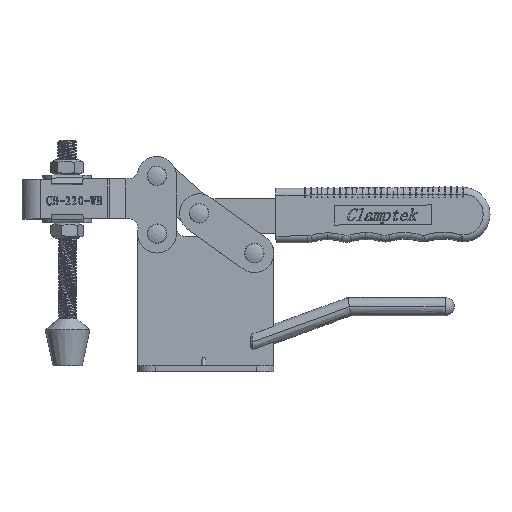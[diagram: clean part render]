
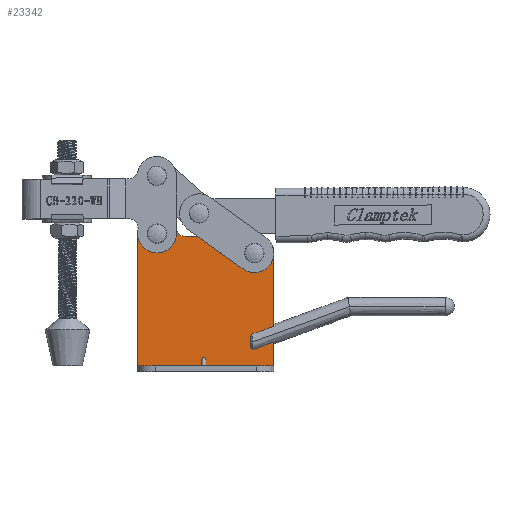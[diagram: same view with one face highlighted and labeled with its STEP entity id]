
A CAD part, top view. The second image highlights one B-rep face of the part: STEP entity #23342.
In plain terms, the highlighted planar face has unit normal (0, 0, 1).
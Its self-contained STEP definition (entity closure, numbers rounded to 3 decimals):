
#100=ELLIPSE('',#24811,1.601,1.);
#305=FACE_BOUND('',#3619,.T.);
#306=FACE_BOUND('',#3620,.T.);
#565=PLANE('',#24834);
#1069=CIRCLE('',#24823,3.2);
#1072=CIRCLE('',#24826,3.2);
#1073=CIRCLE('',#24828,3.2);
#1076=CIRCLE('',#24831,3.2);
#1077=CIRCLE('',#24835,10.);
#1078=CIRCLE('',#24836,5.);
#1079=CIRCLE('',#24837,10.);
#2245=FACE_OUTER_BOUND('',#3618,.T.);
#3618=EDGE_LOOP('',(#17960,#17961,#17962,#17963,#17964,#17965,#17966,#17967,
#17968,#17969,#17970,#17971,#17972,#17973,#17974,#17975,#17976));
#3619=EDGE_LOOP('',(#17977,#17978));
#3620=EDGE_LOOP('',(#17979,#17980));
#5302=LINE('',#42563,#7400);
#5314=LINE('',#42974,#7412);
#5315=LINE('',#42983,#7413);
#5316=LINE('',#42992,#7414);
#5317=LINE('',#42994,#7415);
#5318=LINE('',#42998,#7416);
#5319=LINE('',#43004,#7417);
#5320=LINE('',#43006,#7418);
#5321=LINE('',#43007,#7419);
#5322=LINE('',#43009,#7420);
#5323=LINE('',#43010,#7421);
#7400=VECTOR('',#27551,1000.);
#7412=VECTOR('',#27617,1000.);
#7413=VECTOR('',#27618,1000.);
#7414=VECTOR('',#27619,1000.);
#7415=VECTOR('',#27620,1000.);
#7416=VECTOR('',#27623,1000.);
#7417=VECTOR('',#27628,1000.);
#7418=VECTOR('',#27629,1000.);
#7419=VECTOR('',#27630,1000.);
#7420=VECTOR('',#27631,1000.);
#7421=VECTOR('',#27632,1000.);
#9108=B_SPLINE_CURVE_WITH_KNOTS('',3,(#42976,#42977,#42978,#42979,#42980,
#42981),.UNSPECIFIED.,.F.,.F.,(4,2,4),(0.,0.098,
0.181),.UNSPECIFIED.);
#9109=B_SPLINE_CURVE_WITH_KNOTS('',3,(#42985,#42986,#42987,#42988,#42989,
#42990),.UNSPECIFIED.,.F.,.F.,(4,2,4),(0.,0.071,0.148),
 .UNSPECIFIED.);
#10430=VERTEX_POINT('',#42544);
#10431=VERTEX_POINT('',#42562);
#10437=VERTEX_POINT('',#42653);
#10438=VERTEX_POINT('',#42655);
#10447=VERTEX_POINT('',#42679);
#10448=VERTEX_POINT('',#42680);
#10451=VERTEX_POINT('',#42689);
#10452=VERTEX_POINT('',#42690);
#10458=VERTEX_POINT('',#42973);
#10459=VERTEX_POINT('',#42975);
#10460=VERTEX_POINT('',#42982);
#10461=VERTEX_POINT('',#42984);
#10462=VERTEX_POINT('',#42991);
#10463=VERTEX_POINT('',#42993);
#10464=VERTEX_POINT('',#42995);
#10465=VERTEX_POINT('',#42997);
#10466=VERTEX_POINT('',#42999);
#10467=VERTEX_POINT('',#43001);
#10468=VERTEX_POINT('',#43003);
#10469=VERTEX_POINT('',#43005);
#10470=VERTEX_POINT('',#43008);
#13129=EDGE_CURVE('',#10431,#10430,#5302,.T.);
#13136=EDGE_CURVE('',#10438,#10437,#100,.T.);
#13148=EDGE_CURVE('',#10447,#10448,#1069,.T.);
#13152=EDGE_CURVE('',#10448,#10447,#1072,.T.);
#13153=EDGE_CURVE('',#10451,#10452,#1073,.T.);
#13157=EDGE_CURVE('',#10452,#10451,#1076,.T.);
#13166=EDGE_CURVE('',#10458,#10431,#5314,.T.);
#13167=EDGE_CURVE('',#10430,#10459,#9108,.T.);
#13168=EDGE_CURVE('',#10459,#10460,#5315,.T.);
#13169=EDGE_CURVE('',#10460,#10461,#9109,.T.);
#13170=EDGE_CURVE('',#10461,#10462,#5316,.T.);
#13171=EDGE_CURVE('',#10462,#10463,#5317,.T.);
#13172=EDGE_CURVE('',#10463,#10464,#1077,.T.);
#13173=EDGE_CURVE('',#10464,#10465,#5318,.T.);
#13174=EDGE_CURVE('',#10465,#10466,#1078,.T.);
#13175=EDGE_CURVE('',#10466,#10467,#1079,.T.);
#13176=EDGE_CURVE('',#10467,#10468,#5319,.T.);
#13177=EDGE_CURVE('',#10469,#10468,#5320,.T.);
#13178=EDGE_CURVE('',#10438,#10469,#5321,.T.);
#13179=EDGE_CURVE('',#10437,#10470,#5322,.T.);
#13180=EDGE_CURVE('',#10458,#10470,#5323,.T.);
#17960=ORIENTED_EDGE('',*,*,#13166,.T.);
#17961=ORIENTED_EDGE('',*,*,#13129,.T.);
#17962=ORIENTED_EDGE('',*,*,#13167,.T.);
#17963=ORIENTED_EDGE('',*,*,#13168,.T.);
#17964=ORIENTED_EDGE('',*,*,#13169,.T.);
#17965=ORIENTED_EDGE('',*,*,#13170,.T.);
#17966=ORIENTED_EDGE('',*,*,#13171,.T.);
#17967=ORIENTED_EDGE('',*,*,#13172,.T.);
#17968=ORIENTED_EDGE('',*,*,#13173,.T.);
#17969=ORIENTED_EDGE('',*,*,#13174,.T.);
#17970=ORIENTED_EDGE('',*,*,#13175,.T.);
#17971=ORIENTED_EDGE('',*,*,#13176,.T.);
#17972=ORIENTED_EDGE('',*,*,#13177,.F.);
#17973=ORIENTED_EDGE('',*,*,#13178,.F.);
#17974=ORIENTED_EDGE('',*,*,#13136,.T.);
#17975=ORIENTED_EDGE('',*,*,#13179,.T.);
#17976=ORIENTED_EDGE('',*,*,#13180,.F.);
#17977=ORIENTED_EDGE('',*,*,#13153,.F.);
#17978=ORIENTED_EDGE('',*,*,#13157,.F.);
#17979=ORIENTED_EDGE('',*,*,#13148,.F.);
#17980=ORIENTED_EDGE('',*,*,#13152,.F.);
#23342=ADVANCED_FACE('',(#2245,#305,#306),#565,.T.);
#24811=AXIS2_PLACEMENT_3D('',#42656,#27561,#27562);
#24823=AXIS2_PLACEMENT_3D('',#42681,#27588,#27589);
#24826=AXIS2_PLACEMENT_3D('',#42687,#27595,#27596);
#24828=AXIS2_PLACEMENT_3D('',#42691,#27599,#27600);
#24831=AXIS2_PLACEMENT_3D('',#42697,#27606,#27607);
#24834=AXIS2_PLACEMENT_3D('',#42972,#27615,#27616);
#24835=AXIS2_PLACEMENT_3D('',#42996,#27621,#27622);
#24836=AXIS2_PLACEMENT_3D('',#43000,#27624,#27625);
#24837=AXIS2_PLACEMENT_3D('',#43002,#27626,#27627);
#27551=DIRECTION('',(-0.94,-0.342,0.));
#27561=DIRECTION('center_axis',(0.,0.,
-1.));
#27562=DIRECTION('ref_axis',(0.,1.,0.));
#27588=DIRECTION('center_axis',(0.,0.,1.));
#27589=DIRECTION('ref_axis',(1.,0.,0.));
#27595=DIRECTION('center_axis',(0.,0.,1.));
#27596=DIRECTION('ref_axis',(1.,0.,0.));
#27599=DIRECTION('center_axis',(0.,0.,1.));
#27600=DIRECTION('ref_axis',(1.,0.,0.));
#27606=DIRECTION('center_axis',(0.,0.,1.));
#27607=DIRECTION('ref_axis',(1.,0.,0.));
#27615=DIRECTION('center_axis',(0.,0.,1.));
#27616=DIRECTION('ref_axis',(1.,0.,0.));
#27617=DIRECTION('',(0.,1.,0.));
#27618=DIRECTION('',(0.,1.,0.));
#27619=DIRECTION('',(0.94,0.342,0.));
#27620=DIRECTION('',(0.,1.,0.));
#27621=DIRECTION('center_axis',(0.,0.,1.));
#27622=DIRECTION('ref_axis',(1.,0.,0.));
#27623=DIRECTION('',(-1.,0.,0.));
#27624=DIRECTION('center_axis',(0.,0.,-1.));
#27625=DIRECTION('ref_axis',(1.,0.,0.));
#27626=DIRECTION('center_axis',(0.,0.,1.));
#27627=DIRECTION('ref_axis',(1.,0.,0.));
#27628=DIRECTION('',(0.,-1.,0.));
#27629=DIRECTION('',(-1.,0.,0.));
#27630=DIRECTION('',(0.,-1.,0.));
#27631=DIRECTION('',(0.,-1.,0.));
#27632=DIRECTION('',(-1.,0.,0.));
#42544=CARTESIAN_POINT('',(59.279,11.466,3.));
#42562=CARTESIAN_POINT('',(70.,15.368,3.));
#42563=CARTESIAN_POINT('',(83.984,20.457,3.));
#42653=CARTESIAN_POINT('',(35.,5.736,3.));
#42655=CARTESIAN_POINT('',(33.,5.736,3.));
#42656=CARTESIAN_POINT('Origin',(34.,5.736,3.));
#42679=CARTESIAN_POINT('',(6.8,71.,3.));
#42680=CARTESIAN_POINT('',(13.2,71.,3.));
#42681=CARTESIAN_POINT('Origin',(10.,71.,3.));
#42687=CARTESIAN_POINT('Origin',(10.,71.,3.));
#42689=CARTESIAN_POINT('',(56.8,61.,3.));
#42690=CARTESIAN_POINT('',(63.2,61.,3.));
#42691=CARTESIAN_POINT('Origin',(60.,61.,3.));
#42697=CARTESIAN_POINT('Origin',(60.,61.,3.));
#42972=CARTESIAN_POINT('Origin',(10.,71.,3.));
#42973=CARTESIAN_POINT('',(70.,3.,3.));
#42974=CARTESIAN_POINT('',(70.,0.,3.));
#42975=CARTESIAN_POINT('',(58.,12.766,3.));
#42976=CARTESIAN_POINT('Ctrl Pts',(59.278,11.465,3.));
#42977=CARTESIAN_POINT('Ctrl Pts',(59.037,11.685,3.));
#42978=CARTESIAN_POINT('Ctrl Pts',(58.795,11.915,3.));
#42979=CARTESIAN_POINT('Ctrl Pts',(58.372,12.346,3.));
#42980=CARTESIAN_POINT('Ctrl Pts',(58.179,12.553,3.));
#42981=CARTESIAN_POINT('Ctrl Pts',(58.,12.766,3.));
#42982=CARTESIAN_POINT('',(58.,17.964,3.));
#42983=CARTESIAN_POINT('',(58.,71.,3.));
#42984=CARTESIAN_POINT('',(58.719,19.263,3.001));
#42985=CARTESIAN_POINT('Ctrl Pts',(58.,17.964,3.));
#42986=CARTESIAN_POINT('Ctrl Pts',(58.11,18.175,3.));
#42987=CARTESIAN_POINT('Ctrl Pts',(58.223,18.386,3.));
#42988=CARTESIAN_POINT('Ctrl Pts',(58.462,18.818,3.));
#42989=CARTESIAN_POINT('Ctrl Pts',(58.59,19.041,3.));
#42990=CARTESIAN_POINT('Ctrl Pts',(58.718,19.263,3.));
#42991=CARTESIAN_POINT('',(70.,23.368,3.));
#42992=CARTESIAN_POINT('',(83.984,28.457,3.));
#42993=CARTESIAN_POINT('',(70.,61.,3.));
#42994=CARTESIAN_POINT('',(70.,0.,3.));
#42995=CARTESIAN_POINT('',(54.897,69.6,3.));
#42996=CARTESIAN_POINT('Origin',(60.,61.,3.));
#42997=CARTESIAN_POINT('',(24.562,69.6,3.));
#42998=CARTESIAN_POINT('',(24.562,69.6,3.));
#42999=CARTESIAN_POINT('',(19.708,73.4,3.));
#43000=CARTESIAN_POINT('Origin',(24.562,74.6,3.));
#43001=CARTESIAN_POINT('',(0.,71.,3.));
#43002=CARTESIAN_POINT('Origin',(10.,71.,3.));
#43003=CARTESIAN_POINT('',(0.,3.,3.));
#43004=CARTESIAN_POINT('',(0.,0.,3.));
#43005=CARTESIAN_POINT('',(33.,3.,3.));
#43006=CARTESIAN_POINT('',(10.,3.,3.));
#43007=CARTESIAN_POINT('',(33.,3.,3.));
#43008=CARTESIAN_POINT('',(35.,3.,3.));
#43009=CARTESIAN_POINT('',(35.,3.,3.));
#43010=CARTESIAN_POINT('',(10.,3.,3.));
